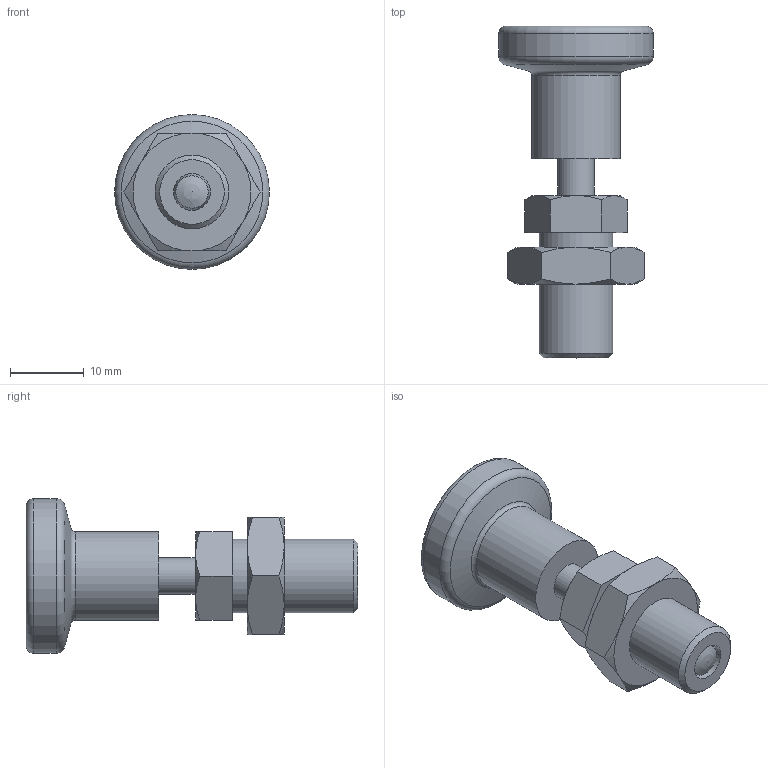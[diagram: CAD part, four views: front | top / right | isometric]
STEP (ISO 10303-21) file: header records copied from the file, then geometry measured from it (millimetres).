
FILE_DESCRIPTION( ( 'STEP AP203' ), '1' );
FILE_NAME( 'C:/Temp/Ganter_Step_05_03_2020/data/3_1/gn617_n/gn617n_ak/Stainless Steel Indexing plunger GN 617-5-AK-NI (activated-2).stp', '2020-03-12T08:42:59', ( 'License CC BY-ND 4.0' ), ( 'CADENAS' ), ' ', 'PARTsolutions', ' ' );
FILE_SCHEMA( ( 'CONFIG_CONTROL_DESIGN' ) );
Length unit declared in the file: millimetre
Products named in the file (4): Stainless Steel Indexing plunger GN 617-5-AK-NI (activated-2); _STAINLESS STEEL - Indexing plunger GN 617-5-AK-NI (2) -2; _Indexing plunger GN 617-5-AK-NI (1 2)-1; _STAINLESS STEEL - Indexing plunger GN 617-5-AK-NI-3
Assembly tree (3 placements, depth 2):
  Stainless Steel Indexing plunger GN 617-5-AK-NI (activated-2)
    _STAINLESS STEEL - Indexing plunger GN 617-5-AK-NI (2) -2
    _Indexing plunger GN 617-5-AK-NI (1 2)-1
    _STAINLESS STEEL - Indexing plunger GN 617-5-AK-NI-3
Bounding box: 21 x 45 x 21 mm (x, y, z)
Volume: 5916.4 mm3; surface area: 4022.7 mm2
Topology: 3 solids, 3 shells, 61 faces, 123 edges, 73 vertices
Faces by surface type: plane 23, cone 23, cylinder 10, torus 3, bspline 1, sphere 1
Full cylindrical faces by diameter (mm): 5 x4, 8 x2, 8.917 x1, 10 x1, 11.99 x1, 21 x1
Entity records: 1740 total; most frequent: CARTESIAN_POINT 460, DIRECTION 238, ORIENTED_EDGE 200, AXIS2_PLACEMENT_3D 110, EDGE_CURVE 100, EDGE_LOOP 90, FACE_OUTER_BOUND 74, VERTEX_POINT 72
